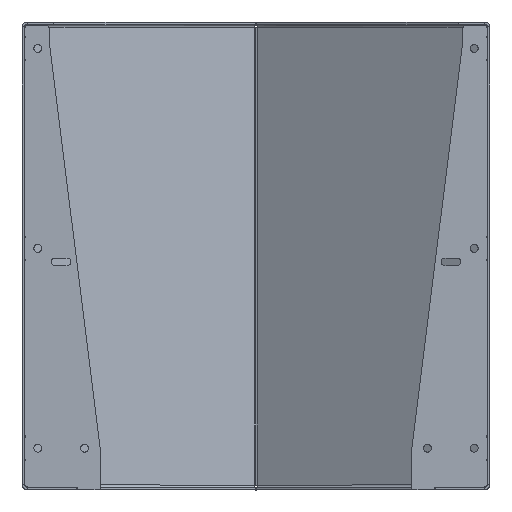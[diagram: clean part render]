
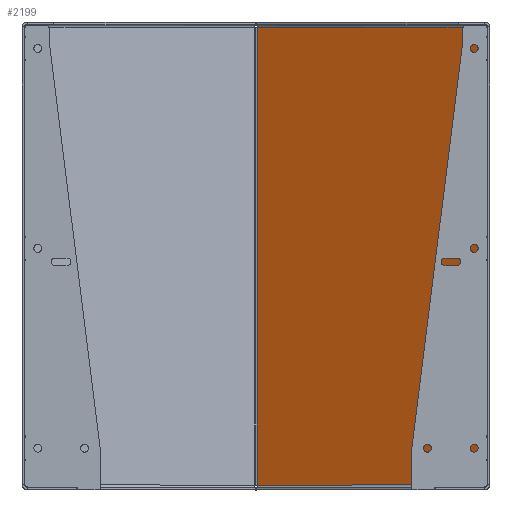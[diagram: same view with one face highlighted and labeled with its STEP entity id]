
A CAD part, top view. The second image highlights one B-rep face of the part: STEP entity #2199.
In plain terms, the highlighted planar face has unit normal (-0.5, 0, 0.866).
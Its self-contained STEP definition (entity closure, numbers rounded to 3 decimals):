
#234 = LINE ( 'NONE', #3299, #5136 ) ;
#397 = CARTESIAN_POINT ( 'NONE',  ( 298.5, 1292.334, -343.812 ) ) ;
#407 = CARTESIAN_POINT ( 'NONE',  ( 301.65, 6.3, -341.993 ) ) ;
#454 = CARTESIAN_POINT ( 'NONE',  ( 301.65, 1292.334, -341.993 ) ) ;
#695 = DIRECTION ( 'NONE',  ( 0.866, 0., 0.5 ) ) ;
#779 = FACE_OUTER_BOUND ( 'NONE', #2544, .T. ) ;
#795 = EDGE_CURVE ( 'NONE', #5058, #1763, #3937, .T. ) ;
#819 = LINE ( 'NONE', #2893, #1868 ) ;
#1663 = AXIS2_PLACEMENT_3D ( 'NONE', #397, #4814, #4238 ) ;
#1697 = VERTEX_POINT ( 'NONE', #2632 ) ;
#1760 = EDGE_CURVE ( 'NONE', #1697, #1763, #819, .T. ) ;
#1763 = VERTEX_POINT ( 'NONE', #407 ) ;
#1868 = VECTOR ( 'NONE', #2925, 1000. ) ;
#2091 = ORIENTED_EDGE ( 'NONE', *, *, #4792, .F. ) ;
#2199 = ADVANCED_FACE ( 'NONE', ( #779 ), #5750, .T. ) ;
#2390 = VECTOR ( 'NONE', #2942, 1000. ) ;
#2544 = EDGE_LOOP ( 'NONE', ( #2091, #3977, #4707, #2916 ) ) ;
#2632 = CARTESIAN_POINT ( 'NONE',  ( 595.35, 6.3, -172.426 ) ) ;
#2731 = LINE ( 'NONE', #3181, #5097 ) ;
#2893 = CARTESIAN_POINT ( 'NONE',  ( 595.35, 6.3, -172.426 ) ) ;
#2916 = ORIENTED_EDGE ( 'NONE', *, *, #1760, .F. ) ;
#2925 = DIRECTION ( 'NONE',  ( -0.866, 0., -0.5 ) ) ;
#2942 = DIRECTION ( 'NONE',  ( 0., -1., 0. ) ) ;
#3181 = CARTESIAN_POINT ( 'NONE',  ( 301.65, 593.7, -341.993 ) ) ;
#3204 = DIRECTION ( 'NONE',  ( 0., -1., 0. ) ) ;
#3275 = EDGE_CURVE ( 'NONE', #5058, #6253, #2731, .T. ) ;
#3299 = CARTESIAN_POINT ( 'NONE',  ( 595.35, 1292.334, -172.426 ) ) ;
#3937 = LINE ( 'NONE', #454, #2390 ) ;
#3977 = ORIENTED_EDGE ( 'NONE', *, *, #3275, .F. ) ;
#4238 = DIRECTION ( 'NONE',  ( 0.866, 0., 0.5 ) ) ;
#4350 = CARTESIAN_POINT ( 'NONE',  ( 301.65, 593.7, -341.993 ) ) ;
#4707 = ORIENTED_EDGE ( 'NONE', *, *, #795, .T. ) ;
#4738 = CARTESIAN_POINT ( 'NONE',  ( 595.35, 593.7, -172.426 ) ) ;
#4792 = EDGE_CURVE ( 'NONE', #6253, #1697, #234, .T. ) ;
#4814 = DIRECTION ( 'NONE',  ( -0.5, 0., 0.866 ) ) ;
#5058 = VERTEX_POINT ( 'NONE', #4350 ) ;
#5097 = VECTOR ( 'NONE', #695, 1000. ) ;
#5136 = VECTOR ( 'NONE', #3204, 1000. ) ;
#5750 = PLANE ( 'NONE',  #1663 ) ;
#6253 = VERTEX_POINT ( 'NONE', #4738 ) ;
